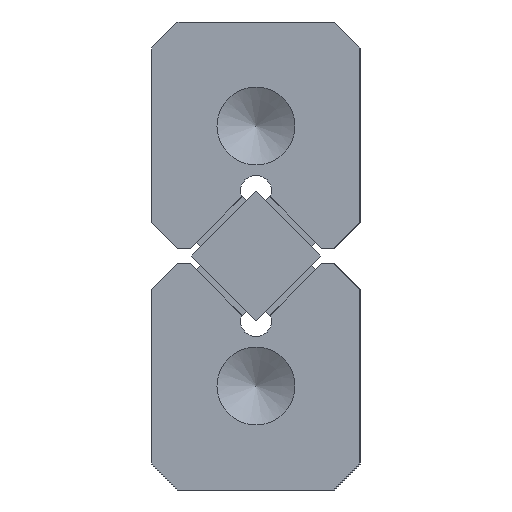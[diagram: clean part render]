
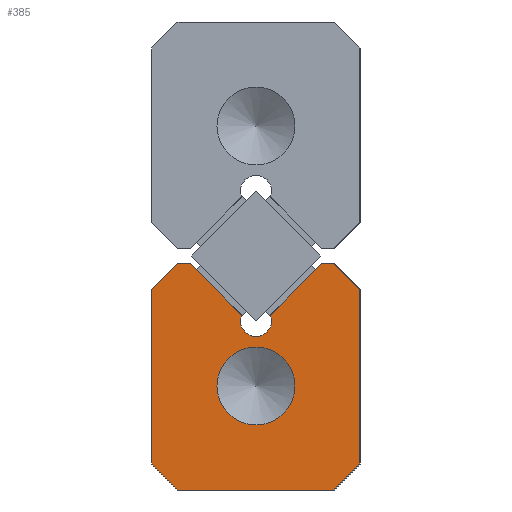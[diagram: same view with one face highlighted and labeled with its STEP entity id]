
A CAD part, left-side view. The second image highlights one B-rep face of the part: STEP entity #385.
In plain terms, the highlighted planar face has unit normal (-1, 0, 0).
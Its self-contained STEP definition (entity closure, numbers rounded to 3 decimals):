
#98=CARTESIAN_POINT('',(0.0,-3.,5.2));
#99=VERTEX_POINT('',#98);
#106=CARTESIAN_POINT('',(0.0,-4.0,4.2));
#107=VERTEX_POINT('',#106);
#108=CARTESIAN_POINT('',(0.0,-3.,5.2));
#109=DIRECTION('',(0.0,-0.707,-0.707));
#110=VECTOR('',#109,1.414);
#111=LINE('',#108,#110);
#112=EDGE_CURVE('',#99,#107,#111,.T.);
#129=CARTESIAN_POINT('',(0.0,-4.0,-2.5));
#130=VERTEX_POINT('',#129);
#131=CARTESIAN_POINT('',(0.0,-4.0,4.2));
#132=DIRECTION('',(0.0,0.0,-1.0));
#133=VECTOR('',#132,6.7);
#134=LINE('',#131,#133);
#135=EDGE_CURVE('',#107,#130,#134,.T.);
#286=CARTESIAN_POINT('',(0.0,0.,0.885));
#287=DIRECTION('',(1.0,0.0,0.0));
#288=DIRECTION('',(0.0,0.0,-1.0));
#289=AXIS2_PLACEMENT_3D('',#286,#287,#288);
#290=PLANE('',#289);
#291=ORIENTED_EDGE('',*,*,#112,.F.);
#292=CARTESIAN_POINT('',(0.0,-2.528,5.2));
#293=VERTEX_POINT('',#292);
#294=CARTESIAN_POINT('',(0.0,-2.528,5.2));
#295=DIRECTION('',(0.0,-1.0,0.0));
#296=VECTOR('',#295,0.472);
#297=LINE('',#294,#296);
#298=EDGE_CURVE('',#293,#99,#297,.T.);
#299=ORIENTED_EDGE('',*,*,#298,.F.);
#300=CARTESIAN_POINT('',(0.0,-0.555,3.227));
#301=VERTEX_POINT('',#300);
#302=CARTESIAN_POINT('',(0.0,-0.555,3.227));
#303=DIRECTION('',(0.0,-0.707,0.707));
#304=VECTOR('',#303,2.79);
#305=LINE('',#302,#304);
#306=EDGE_CURVE('',#301,#293,#305,.T.);
#307=ORIENTED_EDGE('',*,*,#306,.F.);
#308=CARTESIAN_POINT('',(0.0,0.555,3.227));
#309=VERTEX_POINT('',#308);
#310=CARTESIAN_POINT('',(0.0,0.0,3.));
#311=DIRECTION('',(-1.,0.0,0.0));
#312=DIRECTION('',(0.0,0.926,-0.378));
#313=AXIS2_PLACEMENT_3D('',#310,#311,#312);
#314=CIRCLE('',#313,0.6);
#315=EDGE_CURVE('',#309,#301,#314,.T.);
#316=ORIENTED_EDGE('',*,*,#315,.F.);
#317=CARTESIAN_POINT('',(0.0,2.528,5.2));
#318=VERTEX_POINT('',#317);
#319=CARTESIAN_POINT('',(0.0,2.528,5.2));
#320=DIRECTION('',(0.0,-0.707,-0.707));
#321=VECTOR('',#320,2.79);
#322=LINE('',#319,#321);
#323=EDGE_CURVE('',#318,#309,#322,.T.);
#324=ORIENTED_EDGE('',*,*,#323,.F.);
#325=CARTESIAN_POINT('',(0.0,3.,5.2));
#326=VERTEX_POINT('',#325);
#327=CARTESIAN_POINT('',(0.0,3.,5.2));
#328=DIRECTION('',(0.0,-1.0,0.0));
#329=VECTOR('',#328,0.472);
#330=LINE('',#327,#329);
#331=EDGE_CURVE('',#326,#318,#330,.T.);
#332=ORIENTED_EDGE('',*,*,#331,.F.);
#333=CARTESIAN_POINT('',(0.0,4.0,4.2));
#334=VERTEX_POINT('',#333);
#335=CARTESIAN_POINT('',(0.0,4.0,4.2));
#336=DIRECTION('',(0.0,-0.707,0.707));
#337=VECTOR('',#336,1.414);
#338=LINE('',#335,#337);
#339=EDGE_CURVE('',#334,#326,#338,.T.);
#340=ORIENTED_EDGE('',*,*,#339,.F.);
#341=CARTESIAN_POINT('',(0.0,4.0,-2.5));
#342=VERTEX_POINT('',#341);
#343=CARTESIAN_POINT('',(0.0,4.0,-2.5));
#344=DIRECTION('',(0.0,0.0,1.0));
#345=VECTOR('',#344,6.7);
#346=LINE('',#343,#345);
#347=EDGE_CURVE('',#342,#334,#346,.T.);
#348=ORIENTED_EDGE('',*,*,#347,.F.);
#349=CARTESIAN_POINT('',(0.0,3.,-3.5));
#350=VERTEX_POINT('',#349);
#351=CARTESIAN_POINT('',(0.0,3.,-3.5));
#352=DIRECTION('',(0.0,0.707,0.707));
#353=VECTOR('',#352,1.414);
#354=LINE('',#351,#353);
#355=EDGE_CURVE('',#350,#342,#354,.T.);
#356=ORIENTED_EDGE('',*,*,#355,.F.);
#357=CARTESIAN_POINT('',(0.0,-3.,-3.5));
#358=VERTEX_POINT('',#357);
#359=CARTESIAN_POINT('',(0.0,-3.,-3.5));
#360=DIRECTION('',(0.0,1.0,0.0));
#361=VECTOR('',#360,6.);
#362=LINE('',#359,#361);
#363=EDGE_CURVE('',#358,#350,#362,.T.);
#364=ORIENTED_EDGE('',*,*,#363,.F.);
#365=CARTESIAN_POINT('',(0.0,-4.0,-2.5));
#366=DIRECTION('',(0.0,0.707,-0.707));
#367=VECTOR('',#366,1.414);
#368=LINE('',#365,#367);
#369=EDGE_CURVE('',#130,#358,#368,.T.);
#370=ORIENTED_EDGE('',*,*,#369,.F.);
#371=ORIENTED_EDGE('',*,*,#135,.F.);
#372=EDGE_LOOP('',(#291,#299,#307,#316,#324,#332,#340,#348,#356,#364,#370,#371));
#373=FACE_OUTER_BOUND('',#372,.T.);
#374=CARTESIAN_POINT('',(0.0,1.5,0.5));
#375=VERTEX_POINT('',#374);
#376=CARTESIAN_POINT('',(0.0,0.0,0.5));
#377=DIRECTION('',(1.0,0.0,0.0));
#378=DIRECTION('',(0.0,1.0,0.0));
#379=AXIS2_PLACEMENT_3D('',#376,#377,#378);
#380=CIRCLE('',#379,1.5);
#381=EDGE_CURVE('',#375,#375,#380,.T.);
#382=ORIENTED_EDGE('',*,*,#381,.T.);
#383=EDGE_LOOP('',(#382));
#384=FACE_BOUND('',#383,.T.);
#385=ADVANCED_FACE('',(#373,#384),#290,.F.);
